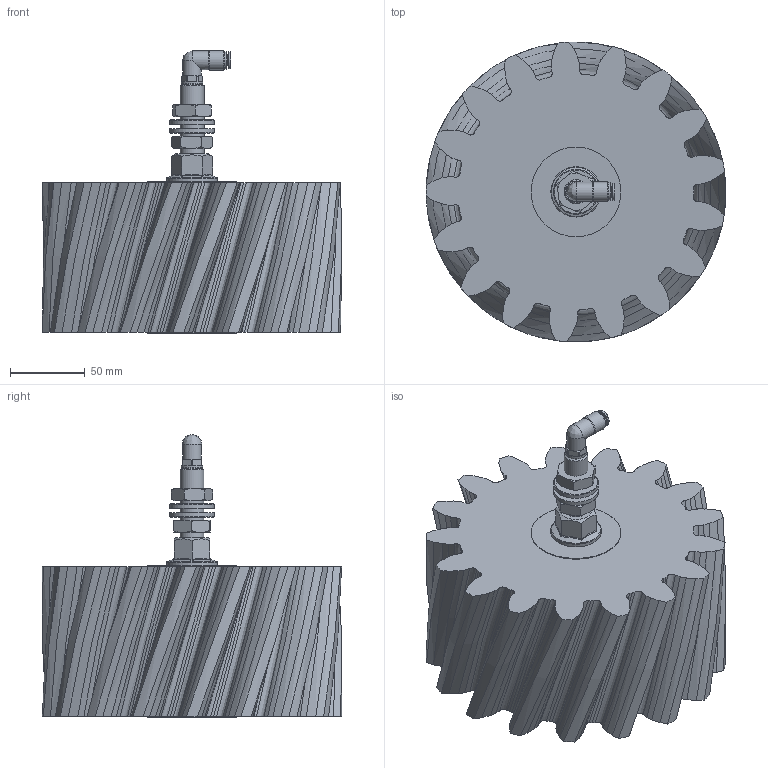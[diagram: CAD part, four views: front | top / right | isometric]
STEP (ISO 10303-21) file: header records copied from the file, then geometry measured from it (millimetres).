
FILE_DESCRIPTION (( 'STEP AP214' ), '1' );
FILE_NAME ('012_13_10_100_17ARZ.STEP', '2026-04-14T12:46:41', ( '' ), ( '' ), 'SwSTEP 2.0', 'SolidWorks 2022', '' );
FILE_SCHEMA (( 'AUTOMOTIVE_DESIGN' ));
Length unit declared in the file: millimetre
Products named in the file (12): Achse_M16_Schmierzahnrad; DR6-C_HDX_25.07.16_1; Senkkopfschraube_M6; Modul_10_S_R; Mutter_M16; OR 7.2X1.9_1; Scheibe_M16; H202242_HDS022_6_M10X1_08.05.17(1); 012_13_10_100_17ARZ; RIVOLUZIONE_0_2; 012_06_02_Scheibe-groß.SLDASM; RH202242
Assembly tree (13 placements, depth 3):
  012_13_10_100_17ARZ
    Achse_M16_Schmierzahnrad
    012_06_02_Scheibe-groß.SLDASM
    Senkkopfschraube_M6
    Mutter_M16  x2
    Scheibe_M16  x2
    H202242_HDS022_6_M10X1_08.05.17(1)
      OR 7.2X1.9_1
      RH202242
      DR6-C_HDX_25.07.16_1
      RIVOLUZIONE_0_2
    Modul_10_S_R
Bounding box: 200.34 x 200.16 x 189 mm (x, y, z)
Volume: 2574877.7 mm3; surface area: 188610.7 mm2
Topology: 12 solids, 12 shells, 743 faces, 2011 edges, 1330 vertices
Faces by surface type: plane 328, bspline 295, cone 62, cylinder 55, torus 3
Full cylindrical faces by diameter (mm): 4 x2, 5 x1, 6 x1, 6.2 x1, 6.3 x1, 7.2 x1, 8.5 x1, 8.92 x2, 9 x2, 9.9 x1, 10 x2, 10.1 x2, 10.3 x1, 11.5 x1, 11.7 x1, 12.5 x2, 13 x1, 14 x2, 14.5 x1, 16 x1, 17 x2, 30 x2, 33.6 x1, 60 x2
Entity records: 72538 total; most frequent: CARTESIAN_POINT 56224, ORIENTED_EDGE 3662, DIRECTION 1992, EDGE_CURVE 1831, VERTEX_POINT 1247, B_SPLINE_CURVE_WITH_KNOTS 868, EDGE_LOOP 836, LINE 800
